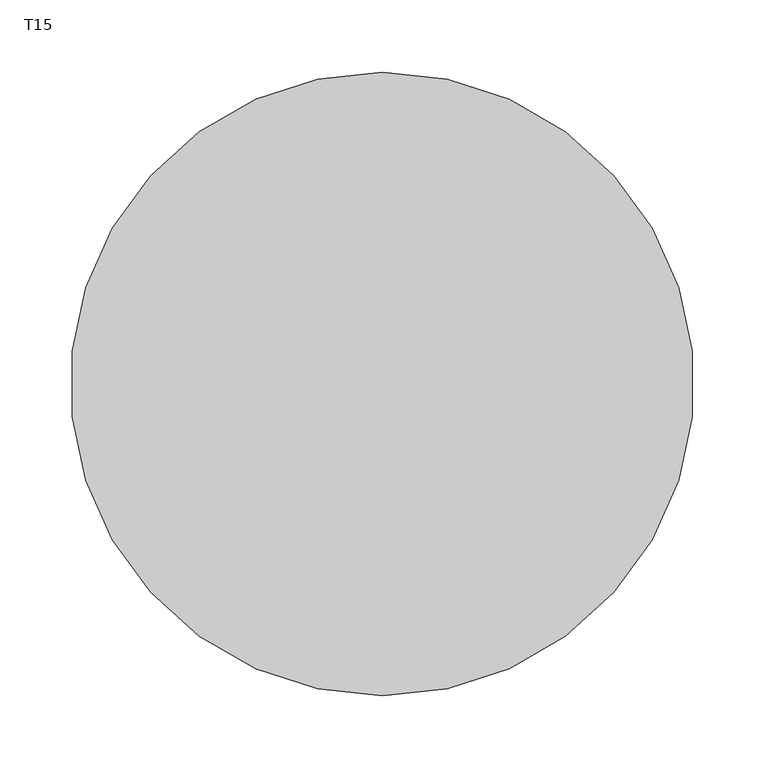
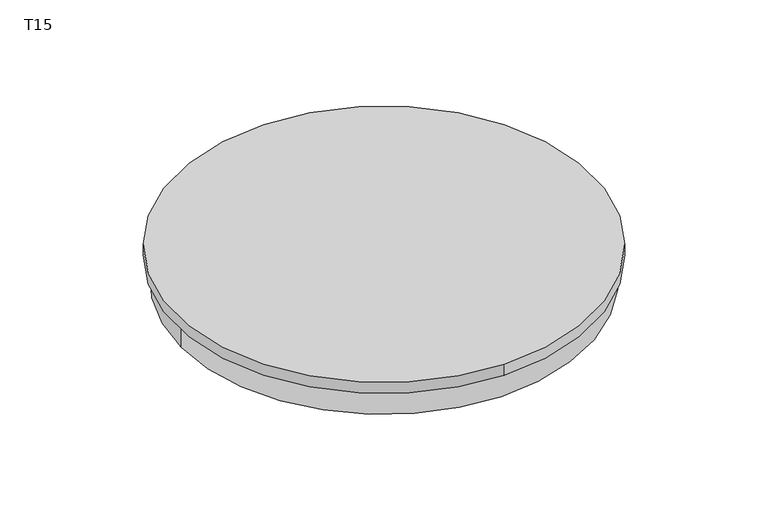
"""IFC4 building model written with IfcOpenShell, lengths in millimetres: valve geometry, Pipelife - Studnia PRO - Właz T15 na rurę DW 400 : T15."""

from ifc_helpers import new_model, si_unit, point, frame, origin, origin_with_axes, origin_2d, place, context, project, spatial, circle_curve, trimmed, segment, composite_curve, outline, extrude, source, transform, mapped, element, save


def t15_e50f0c8e(model_context):
    return source(origin(), model_context, "Body", "SweptSolid", [
        extrude(outline(composite_curve([segment(trimmed(circle_curve(origin_2d(), 209.0), [point((209.0, 0.0))], [point((-209.0, 0.0))], False, "CARTESIAN"), True, "CONTINUOUS"), segment(trimmed(circle_curve(origin_2d(), 209.0), [point((-209.0, 0.0))], [point((209.0, 0.0))], False, "CARTESIAN"), True, "CONTINUOUS")], self_intersect=False), holes=[composite_curve([segment(trimmed(circle_curve(origin_2d(), 199.0), [point((199.0, 0.0))], [point((-199.0, 0.0))], True, "CARTESIAN"), True, "CONTINUOUS"), segment(trimmed(circle_curve(origin_2d(), 199.0), [point((-199.0, 0.0))], [point((199.0, 0.0))], True, "CARTESIAN"), True, "CONTINUOUS")], self_intersect=False)]), frame((0.0, 0.0, -27.0), z_axis=(0.0, 0.0, 1.0), x_axis=(1.0, 0.0, 0.0)), (0.0, 0.0, 1.0), 27.0),
        extrude(outline(composite_curve([segment(trimmed(circle_curve(origin_2d(), 215.0), [point((0.0, 215.0))], [point((0.0, -215.0))], False, "CARTESIAN"), True, "CONTINUOUS"), segment(trimmed(circle_curve(origin_2d(), 215.0), [point((0.0, -215.0))], [point((0.0, 215.0))], False, "CARTESIAN"), True, "CONTINUOUS")], self_intersect=False)), origin_with_axes(), (0.0, 0.0, 1.0), 12.0),
    ])


if __name__ == "__main__":
    model = new_model("IFC4")
    model_context = context("Model", 3, world=origin())
    ifc_project = project(units=[si_unit("LENGTHUNIT", "METRE", prefix="MILLI")], contexts=[model_context])
    site = spatial("IfcSite", under=ifc_project)
    building = spatial("IfcBuilding", under=site)
    placement = place(None, origin())
    t15_shape = t15_e50f0c8e(model_context)
    element("IfcValve", 1, ObjectType="Pipelife - Studnia PRO - Właz T15 na rurę DW 400 : T15", at=placement, inside=building, context=model_context, shape_type="MappedRepresentation", body=[
        mapped(t15_shape, transform((0.0, 0.0, 0.0), x_axis=(1.0, 0.0, 0.0), y_axis=(0.0, 1.0, 0.0), z_axis=(0.0, 0.0, 1.0))),
    ])
    save(model, "model.ifc")
